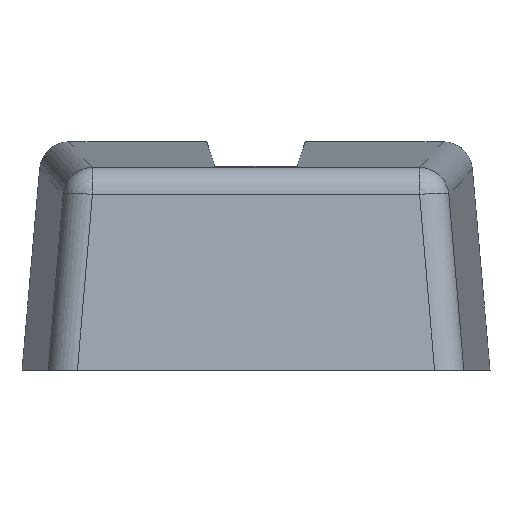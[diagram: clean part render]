
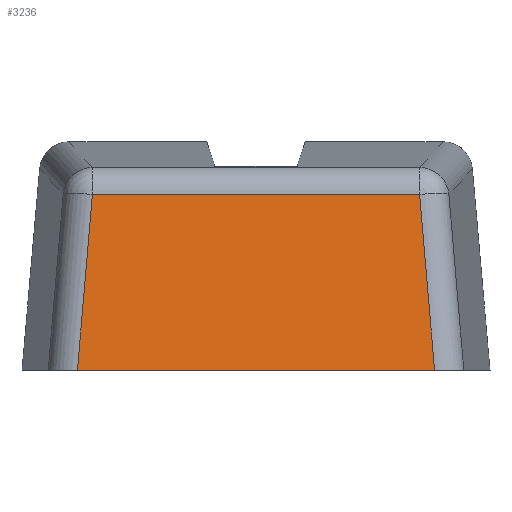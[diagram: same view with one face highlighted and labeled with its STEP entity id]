
A CAD part, front view. The second image highlights one B-rep face of the part: STEP entity #3236.
In plain terms, the highlighted planar face has unit normal (0, -0.996, 0.087).
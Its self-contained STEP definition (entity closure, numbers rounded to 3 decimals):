
#33 = CARTESIAN_POINT ( 'NONE',  ( -7.05, -3., -2.5 ) ) ;
#35 = DIRECTION ( 'NONE',  ( 1., 0., 0. ) ) ;
#145 = CARTESIAN_POINT ( 'NONE',  ( -6.08, -3., -2.5 ) ) ;
#146 = CARTESIAN_POINT ( 'NONE',  ( 6.08, -3., -2.5 ) ) ;
#222 = CARTESIAN_POINT ( 'NONE',  ( -5.57, -2.476, 3.484 ) ) ;
#233 = CARTESIAN_POINT ( 'NONE',  ( 5.57, -2.476, 3.484 ) ) ;
#282 = EDGE_LOOP ( 'NONE', ( #1408, #1409, #1410, #1411 ) ) ;
#768 = FACE_OUTER_BOUND ( 'NONE', #282, .T. ) ;
#865 = AXIS2_PLACEMENT_3D ( 'NONE', #2458, #2467, #2468 ) ;
#979 = VECTOR ( 'NONE', #35, 1000. ) ;
#980 = LINE ( 'NONE', #33, #979 ) ;
#1113 = LINE ( 'NONE', #1916, #1116 ) ;
#1115 = LINE ( 'NONE', #1918, #1118 ) ;
#1116 = VECTOR ( 'NONE', #1917, 1000. ) ;
#1117 = LINE ( 'NONE', #1920, #1120 ) ;
#1118 = VECTOR ( 'NONE', #1919, 1000. ) ;
#1120 = VECTOR ( 'NONE', #1921, 1000. ) ;
#1408 = ORIENTED_EDGE ( 'NONE', *, *, #2212, .T. ) ;
#1409 = ORIENTED_EDGE ( 'NONE', *, *, #2793, .T. ) ;
#1410 = ORIENTED_EDGE ( 'NONE', *, *, #2794, .T. ) ;
#1411 = ORIENTED_EDGE ( 'NONE', *, *, #2795, .T. ) ;
#1916 = CARTESIAN_POINT ( 'NONE',  ( 5.986, -2.904, -1.397 ) ) ;
#1917 = DIRECTION ( 'NONE',  ( -0.085, 0.087, 0.993 ) ) ;
#1918 = CARTESIAN_POINT ( 'NONE',  ( -7.05, -2.476, 3.484 ) ) ;
#1919 = DIRECTION ( 'NONE',  ( -1., 0., 0. ) ) ;
#1920 = CARTESIAN_POINT ( 'NONE',  ( -6.086, -3.007, -2.581 ) ) ;
#1921 = DIRECTION ( 'NONE',  ( -0.085, -0.087, -0.993 ) ) ;
#2212 = EDGE_CURVE ( 'NONE', #2555, #2556, #980, .T. ) ;
#2458 = CARTESIAN_POINT ( 'NONE',  ( -7.05, -3., -2.5 ) ) ;
#2465 = PLANE ( 'NONE',  #865 ) ;
#2467 = DIRECTION ( 'NONE',  ( 0., -0.996, 0.087 ) ) ;
#2468 = DIRECTION ( 'NONE',  ( 0., -0.087, -0.996 ) ) ;
#2555 = VERTEX_POINT ( 'NONE', #145 ) ;
#2556 = VERTEX_POINT ( 'NONE', #146 ) ;
#2636 = VERTEX_POINT ( 'NONE', #222 ) ;
#2647 = VERTEX_POINT ( 'NONE', #233 ) ;
#2793 = EDGE_CURVE ( 'NONE', #2556, #2647, #1113, .T. ) ;
#2794 = EDGE_CURVE ( 'NONE', #2647, #2636, #1115, .T. ) ;
#2795 = EDGE_CURVE ( 'NONE', #2636, #2555, #1117, .T. ) ;
#3236 = ADVANCED_FACE ( 'NONE', ( #768 ), #2465, .T. ) ;
